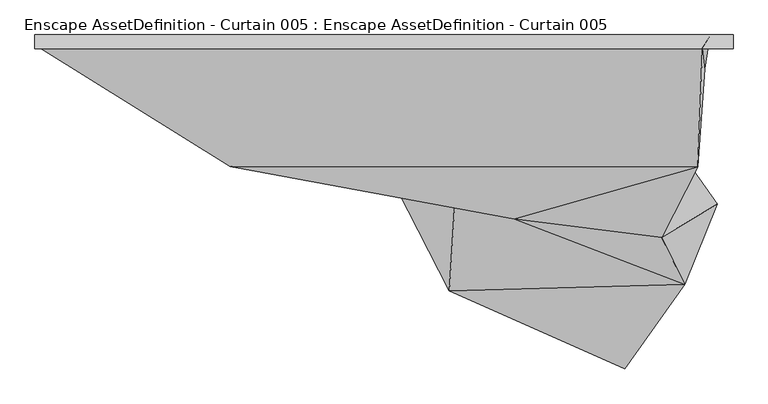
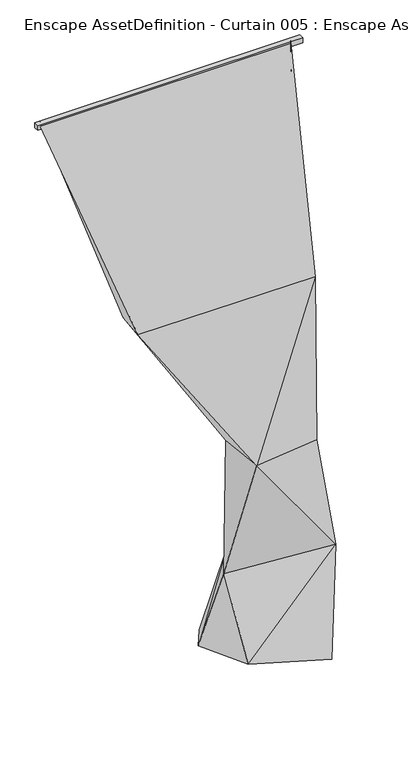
"""IFC4 building model written with IfcOpenShell, lengths in millimetres: geographic element geometry, Enscape AssetDefinition - Curtain 005 : Enscape AssetDefinition - Curtain 005."""

from ifc_helpers import new_model, si_unit, origin, place, context, project, spatial, triangles, source, transform, mapped, element, save


def enscape_assetdefinition_curtain_005_enscape_assetdefinition_7b1fdd9e(model_context):
    return source(origin(), model_context, "Body", "Tessellation", [
        triangles([(7.0607677, -254.1398655, 6.76e-05), (243.5042501, -343.7976923, 908.8531729), (135.9236619, -247.844047, 326.3667795), (253.6687642, -74.1986687, 320.2216968), (70.3394475, -152.2460577, 6.76e-05), (273.5234752, -224.8333149, 6.76e-05), (622.1465452, -316.3750929, 424.6358903), (518.3426342, -378.6782667, 967.6402096), (228.5121783, -102.5959906, 899.5558479), (544.0104715, -205.3280012, 966.5550287), (561.2709369, -466.4810469, 463.7461121), (585.735541, -246.6638138, 1713.354285), (594.5176721, -25.013217, 2797.2155983), (598.8765266, -63.0086268, 1707.2090206), (607.7250054, -3.9499272, 2797.2155983), (-627.8547724, -3.9499272, 2797.2155983), (-273.3782806, -100.978493, 1711.5359367), (-641.0623964, -25.013217, 2797.2155983), (-286.6524704, -246.1628088, 1717.6812012), (449.6141622, -623.7584381, 6.76e-05), (121.8495392, -478.3357012, 6.76e-05), (504.7462984, -483.226718, 6.76e-05), (-651.3702702, -25.6926678, 2774.1449135), (651.643364, -25.6927132, 2800.0000214), (-651.3702702, -0.3081008, 2799.99944), (-651.3702702, -0.3081008, 2774.1449135), (651.643364, -0.3081008, 2774.1452042), (651.643364, -0.3081008, 2800.0000214), (-651.3702702, -25.6926678, 2799.99944), (651.643364, -25.6927132, 2774.1452042)], [[28, 27, 26], [24, 28, 25], [30, 24, 29], [27, 30, 23], [26, 23, 29], [27, 28, 24], [28, 26, 25], [24, 25, 29], [30, 29, 23], [27, 23, 26], [26, 29, 25], [27, 24, 30], [22, 20, 21], [21, 20, 11], [22, 11, 20], [15, 16, 18], [15, 18, 13], [13, 18, 19], [16, 19, 18], [16, 17, 19], [15, 17, 16], [17, 2, 19], [15, 14, 17], [14, 15, 13], [12, 19, 2], [14, 13, 12], [12, 13, 19], [11, 8, 2], [8, 12, 2], [10, 14, 12], [10, 12, 8], [9, 17, 14], [17, 9, 2], [9, 14, 10], [7, 10, 8], [22, 7, 11], [10, 7, 9], [7, 8, 11], [7, 22, 6], [6, 22, 21], [21, 5, 6], [7, 4, 9], [4, 7, 6], [5, 4, 6], [9, 4, 3], [21, 11, 3], [9, 3, 2], [11, 2, 3], [4, 5, 1], [4, 1, 3], [5, 21, 1], [1, 21, 3]]),
    ])


if __name__ == "__main__":
    model = new_model("IFC4")
    model_context = context("Model", 3, world=origin())
    ifc_project = project(units=[si_unit("LENGTHUNIT", "METRE", prefix="MILLI")], contexts=[model_context])
    site = spatial("IfcSite", under=ifc_project)
    building = spatial("IfcBuilding", under=site)
    placement = place(None, origin())
    enscape_assetdefinition_curtain_005_enscape_assetdefinition_shape = enscape_assetdefinition_curtain_005_enscape_assetdefinition_7b1fdd9e(model_context)
    element("IfcGeographicElement", 1, ObjectType="Enscape AssetDefinition - Curtain 005 : Enscape AssetDefinition - Curtain 005", at=placement, inside=building, context=model_context, shape_type="MappedRepresentation", body=[
        mapped(enscape_assetdefinition_curtain_005_enscape_assetdefinition_shape, transform((0.0, 0.0, 0.0), x_axis=(1.0, 0.0, 0.0), y_axis=(0.0, 1.0, 0.0), z_axis=(0.0, 0.0, 1.0))),
    ])
    save(model, "model.ifc")
